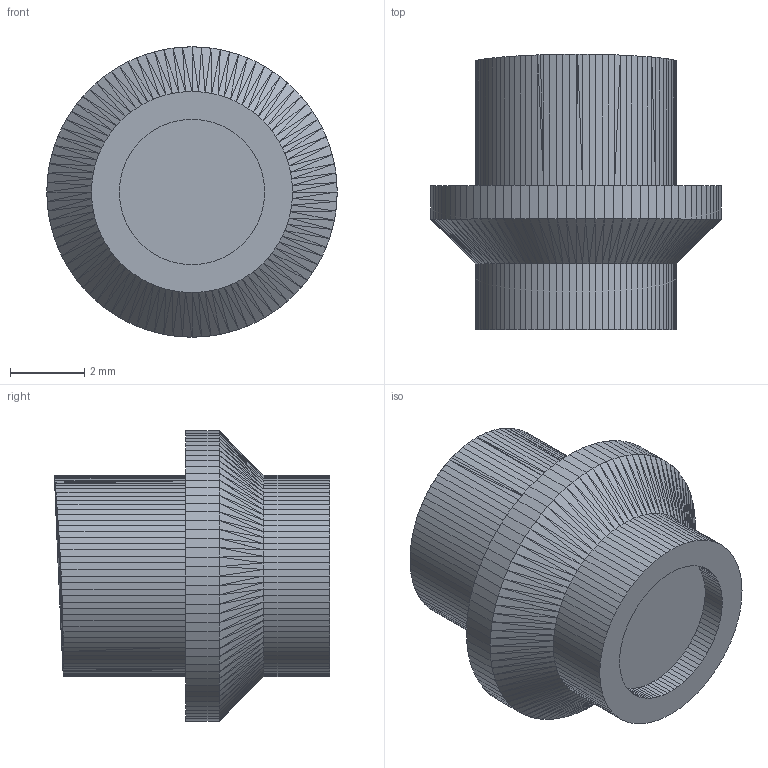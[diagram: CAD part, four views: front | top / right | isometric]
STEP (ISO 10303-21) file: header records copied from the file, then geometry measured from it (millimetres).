
FILE_DESCRIPTION(('Open CASCADE Model'),'2;1');
FILE_NAME('Open CASCADE Shape Model','2026-11-12T09:27:03',('Author'),( 'Open CASCADE'),'Open CASCADE STEP processor 7.9','Open CASCADE 7.9' ,'Unknown');
FILE_SCHEMA(('AUTOMOTIVE_DESIGN { 1 0 10303 214 1 1 1 1 }'));
Length unit declared in the file: millimetre
Products named in the file (1): Open CASCADE STEP translator 7.9 4
Bounding box: 7.8 x 7.39 x 7.8 mm (x, y, z)
Volume: 194.8 mm3; surface area: 223.1 mm2
Topology: 1 solids, 1 shells, 821 faces, 1791 edges, 975 vertices
Faces by surface type: plane 821
Entity records: 43688 total; most frequent: CARTESIAN_POINT 7844, DIRECTION 6343, LINE 4699, VECTOR 4699, ORIENTED_EDGE 3582, PCURVE 3582, DEFINITIONAL_REPRESENTATION 3582, EDGE_CURVE 1791
